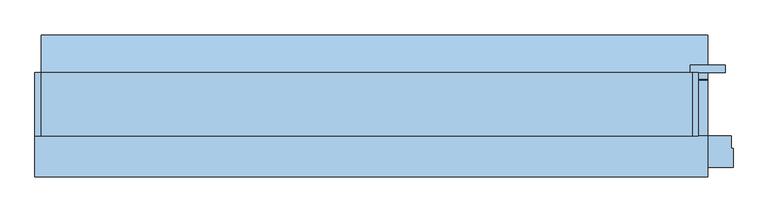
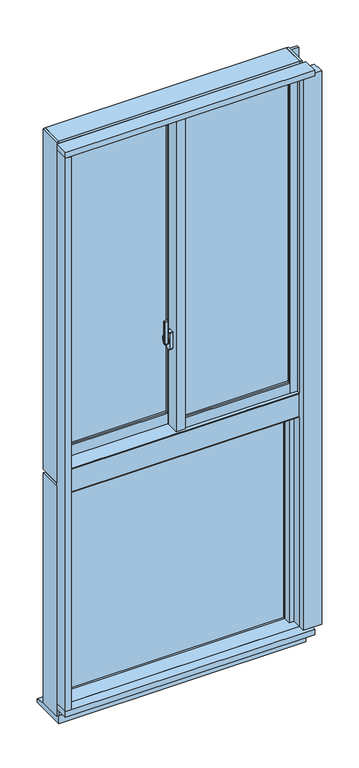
"""IFC4 building model written with IfcOpenShell, lengths in millimetres: window geometry, FNSⅡ100R_非防火_RC枠_段窓_分解無目 : FIX/框ドア."""

from ifc_helpers import new_model, si_unit, point, frame, frame_2d, origin, place, context, project, spatial, polyline, circle_curve, trimmed, segment, composite_curve, outline, extrude, faceted_brep, source, transform, mapped, element, save
from ifc_brep_helpers import plane_surface, cylinder_surface, revolved_surface, advanced_brep


def window_1546418c(model_context):
    return source(origin(), model_context, "Body", "SolidModel", [
        extrude(outline(composite_curve([segment(polyline([(-39.0, -20.4), (-39.0, -28.6)]), True, "CONTINUOUS"), segment(trimmed(circle_curve(frame_2d((-41.0, -28.6)), 2.0), [point((-39.0, -28.6))], [point((-41.3606557, -30.5672131))], False, "CARTESIAN"), True, "CONTINUOUS"), segment(polyline([(-41.3606557, -30.5672131), (-52.3606557, -28.5505464)]), True, "CONTINUOUS"), segment(trimmed(circle_curve(frame_2d((-52.0, -26.5833333)), 2.0), [point((-52.3606557, -28.5505464))], [point((-54.0, -26.5833333))], False, "CARTESIAN"), True, "CONTINUOUS"), segment(polyline([(-54.0, -26.5833333), (-54.0, -22.4166667)]), True, "CONTINUOUS"), segment(trimmed(circle_curve(frame_2d((-52.0, -22.4166667)), 2.0), [point((-54.0, -22.4166667))], [point((-52.3606557, -20.4494536))], False, "CARTESIAN"), True, "CONTINUOUS"), segment(polyline([(-52.3606557, -20.4494536), (-41.3606557, -18.4327869)]), True, "CONTINUOUS"), segment(trimmed(circle_curve(frame_2d((-41.0, -20.4)), 2.0), [point((-41.3606557, -18.4327869))], [point((-39.0, -20.4))], False, "CARTESIAN"), True, "CONTINUOUS")], self_intersect=False)), frame((0.0, 0.0, 2345.0), z_axis=(0.0, 0.0, 1.0), x_axis=(1.0, 0.0, 0.0)), (0.0, 0.0, 1.0), 100.0),
        advanced_brep(
        [(-37.5, -16.1765715, 2376.7333311), (-45.5, -16.1765715, 2376.7333311), (-45.5, -16.5648001, 2375.2844424), (-39.0, -16.5648001, 2375.2844424), (-39.0, -18.3765334, 2368.5229616), (-37.5, -18.3765334, 2368.5229616), (-39.0, -18.3533883, 2334.3190372), (-45.5, -18.3533883, 2334.3190372), (-45.5, -18.092916, 2332.8418256), (-37.5, -18.092916, 2332.8418256), (-37.5, -19.5689255, 2341.2126915), (-39.0, -19.5689255, 2341.2126915)],
        [
            (0, 1),
            (1, 2),
            (2, 3),
            (3, 4),
            (4, 5),
            (5, 0),
            (6, 7),
            (7, 8),
            (8, 9),
            (9, 10),
            (10, 11),
            (11, 6),
            (0, 9, circle_curve(frame((-37.5, -22.0, 2355.0), z_axis=(-1.0, 0.0, 0.0), x_axis=(0.0, 0.25881904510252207, 0.965925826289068)), 22.5)),
            (8, 1, circle_curve(frame((-45.5, -22.0, 2355.0), z_axis=(1.0, 0.0, 0.0), x_axis=(0.0, 0.25881904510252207, 0.965925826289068)), 22.5)),
            (7, 2, circle_curve(frame((-45.5, -22.0, 2355.0), z_axis=(1.0, 0.0, 0.0), x_axis=(0.0, 0.25881904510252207, 0.965925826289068)), 21.0)),
            (6, 3, circle_curve(frame((-39.0, -22.0, 2355.0), z_axis=(1.0, 0.0, 0.0), x_axis=(0.0, 0.25881904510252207, 0.965925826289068)), 21.0)),
            (11, 4, circle_curve(frame((-39.0, -22.0, 2355.0), z_axis=(-1.0, 0.0, 0.0), x_axis=(0.0, -1.0, 0.0)), 14.0)),
            (5, 10, circle_curve(frame((-37.5, -22.0, 2355.0), z_axis=(1.0, 0.0, 0.0), x_axis=(0.0, -1.0, 0.0)), 14.0)),
        ],
        [
            plane_surface(frame((-43.5470497, -22.0, 2355.0), z_axis=(0.0, -0.965925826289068, 0.25881904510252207), x_axis=(0.0, 0.25881904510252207, 0.965925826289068))),
            plane_surface(frame((-43.5470497, -22.0, 2355.0), z_axis=(0.0, -0.9848077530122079, -0.17364817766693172), x_axis=(0.0, 0.17364817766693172, -0.9848077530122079))),
            cylinder_surface(frame((-43.5470497, -22.0, 2355.0), z_axis=(-1.0, 0.0, 0.0), x_axis=(0.0, 0.25881904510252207, 0.965925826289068)), 22.5),
            plane_surface(frame((-45.5, -22.0, 2355.0), z_axis=(-1.0, 0.0, 0.0), x_axis=(0.0, 0.25881904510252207, 0.965925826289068))),
            revolved_surface(polyline([(-45.5, -16.564800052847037, 2375.2844423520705), (-39.0, -16.564800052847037, 2375.2844423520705)]), (-43.5470497, -22.0, 2355.0), (-1.0, 0.0, 0.0)),
            plane_surface(frame((-39.0, -22.0, 2355.0), z_axis=(-1.0, 0.0, 0.0), x_axis=(0.0, 0.25881904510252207, 0.965925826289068))),
            plane_surface(frame((-37.5, -22.0, 2355.0), z_axis=(1.0, 0.0, 0.0), x_axis=(0.0, 0.25881904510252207, 0.965925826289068))),
            cylinder_surface(frame((-37.5, -22.0, 2355.0), z_axis=(-1.0, 0.0, 0.0), x_axis=(0.0, -1.0, 0.0)), 14.0),
        ],
        [
            (0, [[1, 2, 3, 4, 5, 6]]),
            (1, [[7, 8, 9, 10, 11, 12]]),
            (2, [[-1, 13, -9, 14]]),
            (3, [[-2, -14, -8, 15]]),
            (4, [[-3, -15, -7, 16]]),
            (5, [[-16, -12, 17, -4]]),
            (6, [[-13, -6, 18, -10]]),
            (7, [[-17, -11, -18, -5]]),
        ],
    ),
        extrude(outline(composite_curve([segment(trimmed(circle_curve(frame_2d((-22.0, 2355.0)), 11.5), [point((-10.5, 2355.0))], [point((-33.5, 2355.0))], False, "CARTESIAN"), True, "CONTINUOUS"), segment(trimmed(circle_curve(frame_2d((-22.0, 2355.0)), 11.5), [point((-33.5, 2355.0))], [point((-10.5, 2355.0))], False, "CARTESIAN"), True, "CONTINUOUS")], self_intersect=False)), frame((-37.5, 0.0, 0.0), z_axis=(1.0, 0.0, 0.0), x_axis=(0.0, 1.0, 0.0)), (0.0, 0.0, 1.0), 2.5),
        extrude(outline(composite_curve([segment(polyline([(-31.0, 2392.5), (-13.0, 2392.5)]), True, "CONTINUOUS"), segment(trimmed(circle_curve(frame_2d((-13.0, 2390.5)), 2.0), [point((-13.0, 2392.5))], [point((-11.0, 2390.5))], False, "CARTESIAN"), True, "CONTINUOUS"), segment(polyline([(-11.0, 2390.5), (-11.0, 2319.5)]), True, "CONTINUOUS"), segment(trimmed(circle_curve(frame_2d((-13.0, 2319.5)), 2.0), [point((-11.0, 2319.5))], [point((-13.0, 2317.5))], False, "CARTESIAN"), True, "CONTINUOUS"), segment(polyline([(-13.0, 2317.5), (-31.0, 2317.5)]), True, "CONTINUOUS"), segment(trimmed(circle_curve(frame_2d((-31.0, 2319.5)), 2.0), [point((-31.0, 2317.5))], [point((-33.0, 2319.5))], False, "CARTESIAN"), True, "CONTINUOUS"), segment(polyline([(-33.0, 2319.5), (-33.0, 2390.5)]), True, "CONTINUOUS"), segment(trimmed(circle_curve(frame_2d((-31.0, 2390.5)), 2.0), [point((-33.0, 2390.5))], [point((-31.0, 2392.5))], False, "CARTESIAN"), True, "CONTINUOUS")], self_intersect=False)), frame((-35.0, 0.0, 0.0), z_axis=(1.0, 0.0, 0.0), x_axis=(0.0, 1.0, 0.0)), (0.0, 0.0, 1.0), 15.0),
        extrude(outline(polyline([(20.0, -31.0), (468.0, -31.0), (468.0, -37.0), (20.0, -37.0), (20.0, -31.0)])), frame((0.0, 0.0, 2003.0), z_axis=(0.0, 0.0, 1.0), x_axis=(1.0, 0.0, 0.0)), (0.0, 0.0, 1.0), 1357.0),
        extrude(outline(polyline([(20.0, -13.0), (468.0, -13.0), (468.0, -19.0), (20.0, -19.0), (20.0, -13.0)])), frame((0.0, 0.0, 2003.0), z_axis=(0.0, 0.0, 1.0), x_axis=(1.0, 0.0, 0.0)), (0.0, 0.0, 1.0), 1357.0),
        extrude(outline(polyline([(-468.0, 27.0), (-20.0, 27.0), (-20.0, 21.0), (-468.0, 21.0), (-468.0, 27.0)])), frame((0.0, 0.0, 2003.0), z_axis=(0.0, 0.0, 1.0), x_axis=(1.0, 0.0, 0.0)), (0.0, 0.0, 1.0), 1357.0),
        extrude(outline(polyline([(-468.0, 45.0), (-20.0, 45.0), (-20.0, 39.0), (-468.0, 39.0), (-468.0, 45.0)])), frame((0.0, 0.0, 2003.0), z_axis=(0.0, 0.0, 1.0), x_axis=(1.0, 0.0, 0.0)), (0.0, 0.0, 1.0), 1357.0),
        faceted_brep([(-489.5, 24.0, 3400.0), (-500.0, 24.0, 3400.0), (-500.0, 24.0, 1915.0), (-468.0, 24.0, 1915.0), (-468.0, 24.0, 1955.0), (-489.5, 24.0, 1955.0), (-489.5, 11.0, 3400.0), (-489.5, 11.0, 1955.0), (-468.0, 53.0, 3400.0), (-468.0, 11.0, 3400.0), (-468.0, 11.0, 1955.0), (-468.0, 53.0, 1915.0), (-500.0, 53.0, 3400.0), (-500.0, 53.0, 1915.0)], [[[0, 1, 2, 3, 4, 5]], [[6, 0, 5, 7]], [[8, 9, 10, 4, 3, 11]], [[1, 0, 6, 9, 8, 12]], [[3, 2, 13, 11]], [[9, 6, 7, 10]], [[12, 8, 11, 13]], [[2, 1, 12, 13]], [[5, 4, 10, 7]]]),
        faceted_brep([(-20.0, 10.5, 3400.0), (-1.8, 10.5, 3400.0), (-1.8, -1.9, 3400.0), (20.0, -1.9, 3400.0), (20.0, 53.0, 3400.0), (-20.0, 53.0, 3400.0), (-20.0, 53.0, 1915.0), (20.0, 53.0, 1915.0), (20.0, 24.0, 1915.0), (-20.0, 24.0, 1915.0), (-20.0, 10.5, 1955.0), (-1.8, 10.5, 1955.0), (-1.8, -1.9, 1955.0), (20.0, -1.9, 1955.0), (20.0, 24.0, 1955.0), (-20.0, 24.0, 1955.0)], [[[0, 1, 2, 3, 4, 5]], [[6, 7, 8, 9]], [[1, 0, 10, 11]], [[2, 1, 11, 12]], [[3, 2, 12, 13]], [[4, 3, 13, 14, 8, 7]], [[5, 4, 7, 6]], [[0, 5, 6, 9, 15, 10]], [[14, 15, 9, 8]], [[15, 14, 13, 12, 11, 10]]]),
        extrude(outline(polyline([(-20.0, -1.9), (-15.0, -1.9), (-15.0, -47.0), (15.0, -47.0), (15.0, -43.0), (20.0, -43.0), (20.0, -55.0), (-20.0, -55.0), (-20.0, -1.9)])), frame((0.0, 0.0, 1955.0), z_axis=(0.0, 0.0, 1.0), x_axis=(1.0, 0.0, 0.0)), (0.0, 0.0, 1.0), 1445.0),
        extrude(outline(polyline([(-15.0, -1.9), (20.0, -1.9), (20.0, -43.0), (15.0, -43.0), (15.0, -47.0), (-15.0, -47.0), (-15.0, -1.9)])), frame((0.0, 0.0, 1955.0), z_axis=(0.0, 0.0, 1.0), x_axis=(1.0, 0.0, 0.0)), (0.0, 0.0, 1.0), 1445.0),
        extrude(outline(polyline([(468.0, -55.0), (468.0, -47.0), (489.5, -47.0), (489.5, -34.0), (497.0, -34.0), (497.0, -55.0), (468.0, -55.0)])), frame((0.0, 0.0, 1958.0), z_axis=(0.0, 0.0, 1.0), x_axis=(1.0, 0.0, 0.0)), (0.0, 0.0, 1.0), 1442.0),
        extrude(outline(polyline([(468.0, -5.0), (500.0, -5.0), (500.0, -34.0), (489.5, -34.0), (489.5, -47.0), (468.0, -47.0), (468.0, -5.0)])), frame((0.0, 0.0, 1955.0), z_axis=(0.0, 0.0, 1.0), x_axis=(1.0, 0.0, 0.0)), (0.0, 0.0, 1.0), 1445.0),
        extrude(outline(polyline([(-1.85, 10.5), (-1.85, 3.0), (-20.0, 3.0), (-20.0, 10.5), (-1.85, 10.5)])), frame((0.0, 0.0, 1955.0), z_axis=(0.0, 0.0, 1.0), x_axis=(1.0, 0.0, 0.0)), (0.0, 0.0, 1.0), 1445.0),
        extrude(outline(polyline([(-497.0, 24.0), (-489.5, 24.0), (-489.5, 11.0), (-468.0, 11.0), (-468.0, 3.0), (-497.0, 3.0), (-497.0, 24.0)])), frame((0.0, 0.0, 1955.0), z_axis=(0.0, 0.0, 1.0), x_axis=(1.0, 0.0, 0.0)), (0.0, 0.0, 1.0), 1445.0),
        extrude(outline(polyline([(-53.0, 1958.0), (-53.0, 2003.0), (-45.0, 2003.0), (-45.0, 1980.5), (-34.0, 1980.5), (-34.0, 1958.0), (-53.0, 1958.0)])), frame((20.0, 0.0, 0.0), z_axis=(1.0, 0.0, 0.0), x_axis=(0.0, 1.0, 0.0)), (0.0, 0.0, 1.0), 448.0),
        extrude(outline(polyline([(-5.0, 1955.0), (-34.0, 1955.0), (-34.0, 1980.5), (-45.0, 1980.5), (-45.0, 2003.0), (-5.0, 2003.0), (-5.0, 1955.0)])), frame((20.0, 0.0, 0.0), z_axis=(1.0, 0.0, 0.0), x_axis=(0.0, 1.0, 0.0)), (0.0, 0.0, 1.0), 448.0),
        extrude(outline(polyline([(5.0, 2003.0), (13.0, 2003.0), (13.0, 1980.5), (24.0, 1980.5), (24.0, 1955.0), (5.0, 1955.0), (5.0, 2003.0)])), frame((-468.0, 0.0, 0.0), z_axis=(1.0, 0.0, 0.0), x_axis=(0.0, 1.0, 0.0)), (0.0, 0.0, 1.0), 448.0),
        extrude(outline(polyline([(53.0, 1915.0), (24.0, 1915.0), (24.0, 1980.5), (13.0, 1980.5), (13.0, 2003.0), (53.0, 2003.0), (53.0, 1915.0)])), frame((-468.0, 0.0, 0.0), z_axis=(1.0, 0.0, 0.0), x_axis=(0.0, 1.0, 0.0)), (0.0, 0.0, 1.0), 448.0),
        extrude(outline(polyline([(-32.0, 3380.5), (-45.0, 3380.5), (-45.0, 3360.0), (-53.0, 3360.0), (-53.0, 3400.0), (-32.0, 3400.0), (-32.0, 3380.5)])), frame((20.0, 0.0, 0.0), z_axis=(1.0, 0.0, 0.0), x_axis=(0.0, 1.0, 0.0)), (0.0, 0.0, 1.0), 448.0),
        extrude(outline(polyline([(-5.0, 3400.0), (-5.0, 3360.0), (-45.0, 3360.0), (-45.0, 3380.5), (-32.0, 3380.5), (-32.0, 3400.0), (-5.0, 3400.0)])), frame((20.0, 0.0, 0.0), z_axis=(1.0, 0.0, 0.0), x_axis=(0.0, 1.0, 0.0)), (0.0, 0.0, 1.0), 448.0),
        extrude(outline(polyline([(26.0, 3380.5), (13.0, 3380.5), (13.0, 3360.0), (5.0, 3360.0), (5.0, 3400.0), (26.0, 3400.0), (26.0, 3380.5)])), frame((-468.0, 0.0, 0.0), z_axis=(1.0, 0.0, 0.0), x_axis=(0.0, 1.0, 0.0)), (0.0, 0.0, 1.0), 448.0),
        extrude(outline(polyline([(53.0, 3400.0), (53.0, 3360.0), (13.0, 3360.0), (13.0, 3380.5), (26.0, 3380.5), (26.0, 3400.0), (53.0, 3400.0)])), frame((-468.0, 0.0, 0.0), z_axis=(1.0, 0.0, 0.0), x_axis=(0.0, 1.0, 0.0)), (0.0, 0.0, 1.0), 448.0),
        extrude(outline(polyline([(-15.0, 25.3), (-15.0, -23.1), (-500.0, -23.1), (-500.0, 25.3), (-15.0, 25.3)])), frame((0.0, 0.0, 3400.0), z_axis=(0.0, 0.0, 1.0), x_axis=(1.0, 0.0, 0.0)), (0.0, 0.0, 1.0), 25.0),
        faceted_brep([(515.0, -45.0, 3425.0), (515.0, -45.0, 3435.0), (-515.0, -45.0, 3435.0), (-515.0, -45.0, 3425.0), (-515.0, 55.0, 3400.0), (-515.0, 25.3, 3400.0), (-515.0, 25.3, 3425.0), (-515.0, 55.0, 3435.0), (515.0, 25.3, 3425.0), (-15.0, 25.3, 3425.0), (-15.0, -23.1, 3425.0), (500.0, -23.1, 3425.0), (500.0, 25.3, 3425.0), (-15.0, 25.3, 3400.0), (515.0, 25.3, 3400.0), (500.0, 25.3, 3400.0), (515.0, 55.0, 3400.0), (500.0, -23.1, 3400.0), (-15.0, -23.1, 3400.0), (515.0, 55.0, 3435.0)], [[[0, 1, 2, 3]], [[4, 5, 6, 3, 2, 7]], [[8, 0, 3, 6, 9, 10, 11, 12]], [[6, 5, 13, 9]], [[14, 8, 12, 15]], [[16, 14, 15, 17, 18, 13, 5, 4]], [[19, 16, 4, 7]], [[1, 19, 7, 2]], [[16, 19, 1, 0, 8, 14]], [[11, 17, 15, 12]], [[13, 18, 10, 9]], [[17, 11, 10, 18]]]),
        extrude(outline(polyline([(-23.1, 3400.0), (-65.0, 3400.0), (-65.0, 3403.0), (-45.0, 3403.0), (-45.0, 3425.0), (-23.1, 3425.0), (-23.1, 3400.0)])), frame((-500.0, 0.0, 0.0), z_axis=(1.0, 0.0, 0.0), x_axis=(0.0, 1.0, 0.0)), (0.0, 0.0, 1.0), 1000.0),
        faceted_brep([(500.0, -65.0, 1955.0), (503.0, -65.0, 1955.0), (503.0, -65.0, 3403.0), (500.0, -65.0, 3403.0), (500.0, -40.5, 3420.0), (515.0, -40.5, 3420.0), (515.0, -40.5, 1955.0), (500.0, -40.5, 1955.0), (500.0, -45.0, 3403.0), (500.0, -45.0, 3420.0), (503.0, -45.0, 3403.0), (515.0, -45.0, 3420.0), (515.0, -45.0, 1955.0), (503.0, -45.0, 1955.0)], [[[0, 1, 2, 3]], [[4, 5, 6, 7]], [[7, 0, 3, 8, 9, 4]], [[10, 8, 3, 2]], [[9, 11, 5, 4]], [[0, 7, 6, 12, 13, 1]], [[1, 13, 10, 2]], [[9, 8, 10, 13, 12, 11]], [[5, 11, 12, 6]]]),
        faceted_brep([(-515.0, 21.0, 3420.0), (-500.0, 21.0, 3420.0), (-500.0, 21.0, 1955.0), (-515.0, 21.0, 1955.0), (-515.0, -45.0, 1955.0), (-503.0, -45.0, 1955.0), (-503.0, -45.0, 3403.0), (-500.0, -45.0, 3403.0), (-500.0, -45.0, 3420.0), (-515.0, -45.0, 3420.0), (-503.0, -65.0, 3403.0), (-500.0, -65.0, 3403.0), (-500.0, -65.0, 1955.0), (-503.0, -65.0, 1955.0)], [[[0, 1, 2, 3]], [[4, 5, 6, 7, 8, 9]], [[7, 6, 10, 11]], [[9, 8, 1, 0]], [[4, 3, 2, 12, 13, 5]], [[5, 13, 10, 6]], [[13, 12, 11, 10]], [[12, 2, 1, 8, 7, 11]], [[4, 9, 0, 3]]]),
        faceted_brep([(-525.0, 55.0, 1895.0), (-515.0, 55.0, 1895.0), (-515.0, -45.0, 1895.0), (-525.0, -45.0, 1895.0), (-515.0, -45.0, 3435.0), (-525.0, -45.0, 3435.0), (-500.0, 55.0, 1904.0), (-500.0, 21.0, 1904.0), (-515.0, 21.0, 1904.0), (-515.0, 55.0, 1904.0), (-500.0, 21.0, 3400.0), (-515.0, 21.0, 3400.0), (-525.0, 55.0, 3435.0), (-515.0, 55.0, 3435.0), (-515.0, 55.0, 3400.0), (-500.0, 55.0, 3400.0)], [[[0, 1, 2, 3]], [[4, 5, 3, 2]], [[6, 7, 8, 9]], [[10, 11, 8, 7]], [[12, 5, 4, 13]], [[5, 12, 0, 3]], [[13, 4, 2, 1, 9, 8, 11, 14]], [[12, 13, 14, 15, 6, 9, 1, 0]], [[15, 14, 11, 10]], [[15, 10, 7, 6]]]),
        faceted_brep([(515.0, -45.0, 1895.0), (515.0, 55.0, 1895.0), (525.0, 55.0, 1895.0), (525.0, -45.0, 1895.0), (500.0, -40.5, 1904.0), (500.0, 55.0, 1904.0), (515.0, 55.0, 1904.0), (515.0, -40.5, 1904.0), (515.0, -45.0, 3435.0), (515.0, 55.0, 3435.0), (515.0, 55.0, 3400.0), (515.0, -40.5, 3400.0), (500.0, -40.5, 3400.0), (525.0, 55.0, 3435.0), (500.0, 55.0, 3400.0), (525.0, -45.0, 3435.0)], [[[0, 1, 2, 3]], [[4, 5, 6, 7]], [[8, 9, 10, 11, 7, 6, 1, 0]], [[11, 12, 4, 7]], [[9, 13, 2, 1, 6, 5, 14, 10]], [[8, 15, 13, 9]], [[12, 14, 5, 4]], [[12, 11, 10, 14]], [[15, 8, 0, 3]], [[13, 15, 3, 2]]]),
        faceted_brep([(515.0, 21.0, 1904.0), (515.0, 55.0, 1904.0), (-515.0, 55.0, 1904.0), (-515.0, 21.0, 1904.0), (515.0, 21.0, 1939.0), (-515.0, 21.0, 1939.0), (515.0, 55.0, 1895.0), (515.0, -45.0, 1895.0), (-515.0, -45.0, 1895.0), (-515.0, 55.0, 1895.0), (515.0, -45.0, 1939.0), (-515.0, -45.0, 1939.0), (500.0, -17.75, 1939.0), (500.0, -36.2, 1939.0), (-15.0, -36.2, 1939.0), (-15.0, -17.75, 1939.0), (500.0, -36.2, 1955.0), (500.0, -17.75, 1955.0), (-15.0, -36.2, 1955.0), (-15.0, -17.75, 1955.0)], [[[0, 1, 2, 3]], [[4, 0, 3, 5]], [[6, 7, 8, 9]], [[10, 4, 5, 11], [12, 13, 14, 15]], [[6, 1, 0, 4, 10, 7]], [[9, 8, 11, 5, 3, 2]], [[7, 10, 11, 8]], [[1, 6, 9, 2]], [[16, 13, 12, 17]], [[18, 19, 15, 14]], [[13, 16, 18, 14]], [[17, 12, 15, 19]], [[16, 17, 19, 18]]]),
        faceted_brep([(-503.0, -45.0, 1939.0), (-503.0, -45.0, 1952.0), (-503.0, -65.0, 1952.0), (-503.0, -65.0, 1955.0), (-503.0, -36.2, 1955.0), (-503.0, -36.2, 1939.0), (503.0, -45.0, 1952.0), (503.0, -65.0, 1952.0), (503.0, -65.0, 1955.0), (503.0, -40.5, 1955.0), (500.0, -40.5, 1955.0), (500.0, -36.2, 1955.0), (-15.0, -36.2, 1955.0), (-15.0, 21.0, 1955.0), (-500.0, 21.0, 1955.0), (-500.0, -36.2, 1955.0), (-500.0, -36.2, 1939.0), (500.0, -36.2, 1939.0), (-15.0, -36.2, 1939.0), (503.0, -45.0, 1939.0), (503.0, -40.5, 1939.0), (-500.0, 21.0, 1939.0), (-15.0, 21.0, 1939.0), (500.0, -40.5, 1939.0)], [[[0, 1, 2, 3, 4, 5]], [[6, 7, 2, 1]], [[7, 8, 3, 2]], [[4, 3, 8, 9, 10, 11, 12, 13, 14, 15]], [[5, 4, 15, 16]], [[11, 17, 18, 12]], [[8, 7, 6, 19, 20, 9]], [[19, 6, 1, 0]], [[0, 5, 16, 21, 22, 18, 17, 23, 20, 19]], [[10, 23, 17, 11]], [[23, 10, 9, 20]], [[13, 12, 18, 22]], [[14, 21, 16, 15]], [[13, 22, 21, 14]]]),
        extrude(outline(polyline([(-480.0, 20.6), (480.0, 20.6), (480.0, 14.6), (-480.0, 14.6), (-480.0, 20.6)])), frame((0.0, 0.0, 900.0), z_axis=(0.0, 0.0, 1.0), x_axis=(1.0, 0.0, 0.0)), (0.0, 0.0, 1.0), 925.0),
        extrude(outline(polyline([(-480.0, 38.6), (480.0, 38.6), (480.0, 32.6), (-480.0, 32.6), (-480.0, 38.6)])), frame((0.0, 0.0, 900.0), z_axis=(0.0, 0.0, 1.0), x_axis=(1.0, 0.0, 0.0)), (0.0, 0.0, 1.0), 925.0),
        faceted_brep([(-525.0, 55.0, 840.0), (-515.0, 55.0, 840.0), (-515.0, -45.0, 840.0), (-525.0, -45.0, 840.0), (-515.0, -45.0, 1880.0), (-525.0, -45.0, 1880.0), (-515.0, 55.0, 1880.0), (-515.0, 55.0, 900.0), (-515.0, 5.0, 900.0), (-515.0, 5.0, 1825.0), (-515.0, 55.0, 1825.0), (-525.0, 55.0, 1880.0), (-480.0, 55.0, 1825.0), (-480.0, 55.0, 900.0), (-480.0, 5.0, 900.0), (-480.0, 5.0, 1825.0)], [[[0, 1, 2, 3]], [[4, 5, 3, 2]], [[6, 4, 2, 1, 7, 8, 9, 10]], [[11, 6, 10, 12, 13, 7, 1, 0]], [[13, 14, 8, 7]], [[11, 5, 4, 6]], [[5, 11, 0, 3]], [[12, 10, 9, 15]], [[15, 9, 8, 14]], [[12, 15, 14, 13]]]),
        faceted_brep([(525.0, 55.0, 840.0), (525.0, -45.0, 840.0), (515.0, -45.0, 840.0), (515.0, 55.0, 840.0), (515.0, 55.0, 1880.0), (525.0, 55.0, 1880.0), (515.0, 55.0, 900.0), (480.0, 55.0, 900.0), (480.0, 55.0, 1825.0), (515.0, 55.0, 1825.0), (515.0, -45.0, 1880.0), (515.0, 5.0, 1825.0), (515.0, 5.0, 900.0), (480.0, 5.0, 900.0), (525.0, -45.0, 1880.0), (480.0, 5.0, 1825.0)], [[[0, 1, 2, 3]], [[4, 5, 0, 3, 6, 7, 8, 9]], [[10, 4, 9, 11, 12, 6, 3, 2]], [[12, 13, 7, 6]], [[5, 4, 10, 14]], [[14, 10, 2, 1]], [[5, 14, 1, 0]], [[9, 8, 15, 11]], [[15, 8, 7, 13]], [[11, 15, 13, 12]]]),
        extrude(outline(polyline([(500.0, -65.0), (500.0, -26.5), (480.0, -26.5), (480.0, 5.0), (515.0, 5.0), (515.0, -45.0), (503.0, -45.0), (503.0, -65.0), (500.0, -65.0)])), frame((0.0, 0.0, 900.0), z_axis=(0.0, 0.0, 1.0), x_axis=(1.0, 0.0, 0.0)), (0.0, 0.0, 1.0), 945.0),
        extrude(outline(polyline([(-515.0, -45.0), (-515.0, 5.0), (-480.0, 5.0), (-480.0, -26.5), (-500.0, -26.5), (-500.0, -65.0), (-503.0, -65.0), (-503.0, -45.0), (-515.0, -45.0)])), frame((0.0, 0.0, 900.0), z_axis=(0.0, 0.0, 1.0), x_axis=(1.0, 0.0, 0.0)), (0.0, 0.0, 1.0), 945.0),
        extrude(outline(polyline([(-45.0, 884.0), (-45.0, 897.0), (-65.0, 897.0), (-65.0, 900.0), (5.0, 900.0), (5.0, 884.0), (-45.0, 884.0)])), frame((-503.0, 0.0, 0.0), z_axis=(1.0, 0.0, 0.0), x_axis=(0.0, 1.0, 0.0)), (0.0, 0.0, 1.0), 1006.0),
        extrude(outline(polyline([(55.0, 840.0), (-45.0, 840.0), (-45.0, 884.0), (5.0, 884.0), (5.0, 900.0), (55.0, 900.0), (55.0, 870.0), (36.0, 870.0), (36.0, 850.0), (55.0, 850.0), (55.0, 840.0)])), frame((-515.0, 0.0, 0.0), z_axis=(1.0, 0.0, 0.0), x_axis=(0.0, 1.0, 0.0)), (0.0, 0.0, 1.0), 1030.0),
        extrude(outline(polyline([(5.0, 1822.0), (-29.0, 1822.0), (-29.0, 1845.0), (-65.0, 1845.0), (-65.0, 1848.0), (-45.0, 1848.0), (-45.0, 1860.0), (5.0, 1860.0), (5.0, 1822.0)])), frame((-503.0, 0.0, 0.0), z_axis=(1.0, 0.0, 0.0), x_axis=(0.0, 1.0, 0.0)), (0.0, 0.0, 1.0), 1006.0),
        extrude(outline(polyline([(55.0, 1825.0), (5.0, 1825.0), (5.0, 1860.0), (-45.0, 1860.0), (-45.0, 1880.0), (55.0, 1880.0), (55.0, 1825.0)])), frame((-515.0, 0.0, 0.0), z_axis=(1.0, 0.0, 0.0), x_axis=(0.0, 1.0, 0.0)), (0.0, 0.0, 1.0), 1030.0),
        extrude(outline(polyline([(-110.0, 900.0), (-65.0, 900.0), (-65.0, 897.0), (-45.0, 897.0), (-45.0, 875.0), (-110.0, 875.0), (-110.0, 900.0)])), frame((-525.0, 0.0, 0.0), z_axis=(1.0, 0.0, 0.0), x_axis=(0.0, 1.0, 0.0)), (0.0, 0.0, 1.0), 1065.0),
        extrude(outline(polyline([(45.0, 840.0), (55.0, 840.0), (55.0, 828.4285714), (45.0, 830.0), (45.0, 840.0)])), frame((-515.0, 0.0, 0.0), z_axis=(1.0, 0.0, 0.0), x_axis=(0.0, 1.0, 0.0)), (0.0, 0.0, 1.0), 1055.0),
        extrude(outline(polyline([(-45.0, 804.0), (-45.0, 840.0), (45.0, 840.0), (45.0, 830.0), (115.0, 819.0), (115.0, 804.0), (-45.0, 804.0)])), frame((-515.0, 0.0, 0.0), z_axis=(1.0, 0.0, 0.0), x_axis=(0.0, 1.0, 0.0)), (0.0, 0.0, 1.0), 1055.0),
        extrude(outline(polyline([(-503.0, -45.0), (-503.0, -65.0), (-500.0, -65.0), (-500.0, -110.0), (-525.0, -110.0), (-525.0, -45.0), (-503.0, -45.0)])), frame((0.0, 0.0, 900.0), z_axis=(0.0, 0.0, 1.0), x_axis=(1.0, 0.0, 0.0)), (0.0, 0.0, 1.0), 2500.0),
        extrude(outline(polyline([(503.0, -65.0), (503.0, -45.0), (577.0, -45.0), (577.0, -65.0), (580.0, -65.0), (580.0, -95.0), (500.0, -95.0), (500.0, -65.0), (503.0, -65.0)])), frame((0.0, 0.0, 900.0), z_axis=(0.0, 0.0, 1.0), x_axis=(1.0, 0.0, 0.0)), (0.0, 0.0, 1.0), 2500.0),
        extrude(outline(polyline([(567.5, 55.0), (512.5, 55.0), (512.5, 67.0), (567.5, 67.0), (567.5, 55.0)])), frame((0.0, 0.0, 840.0), z_axis=(0.0, 0.0, 1.0), x_axis=(1.0, 0.0, 0.0)), (0.0, 0.0, 1.0), 2580.0),
        extrude(outline(polyline([(-110.0, 3425.0), (-45.0, 3425.0), (-45.0, 3403.0), (-65.0, 3403.0), (-65.0, 3400.0), (-110.0, 3400.0), (-110.0, 3425.0)])), frame((-525.0, 0.0, 0.0), z_axis=(1.0, 0.0, 0.0), x_axis=(0.0, 1.0, 0.0)), (0.0, 0.0, 1.0), 1065.0),
        extrude(outline(polyline([(-500.0, -65.0), (-500.0, -45.0), (500.0, -45.0), (500.0, -65.0), (-500.0, -65.0)])), frame((0.0, 0.0, 1848.0), z_axis=(0.0, 0.0, 1.0), x_axis=(1.0, 0.0, 0.0)), (0.0, 0.0, 1.0), 104.0),
        extrude(outline(polyline([(-515.0, -45.0), (-515.0, 43.0), (540.0, 43.0), (540.0, -45.0), (-515.0, -45.0)])), frame((0.0, 0.0, 1880.0), z_axis=(0.0, 0.0, 1.0), x_axis=(1.0, 0.0, 0.0)), (0.0, 0.0, 1.0), 15.0),
    ])


if __name__ == "__main__":
    model = new_model("IFC4")
    model_context = context("Model", 3, world=origin())
    ifc_project = project(units=[si_unit("LENGTHUNIT", "METRE", prefix="MILLI")], contexts=[model_context])
    site = spatial("IfcSite", under=ifc_project)
    building = spatial("IfcBuilding", under=site)
    placement = place(None, origin())
    window_shape = window_1546418c(model_context)
    element("IfcWindow", 1, ObjectType="FNSⅡ100R_非防火_RC枠_段窓_分解無目 : FIX/框ドア", at=placement, inside=building, context=model_context, shape_type="MappedRepresentation", body=[
        mapped(window_shape, transform((0.0, 0.0, 0.0), x_axis=(1.0, 0.0, 0.0), y_axis=(0.0, 1.0, 0.0), z_axis=(0.0, 0.0, 1.0))),
    ])
    save(model, "model.ifc")
